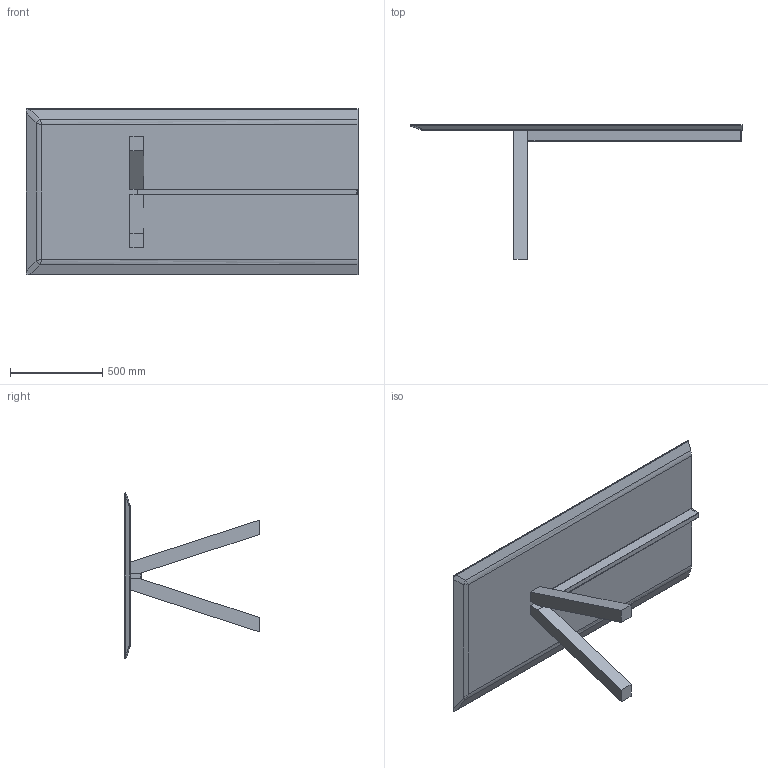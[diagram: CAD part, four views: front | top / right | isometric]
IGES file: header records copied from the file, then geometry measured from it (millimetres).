
Start section: SolidWorks IGES file using NURBS representation for surfaces
Global section: file name: W:\01-VICCARBE\PRODUCTOS\45-TRESTLE\04-MODELADOS (PLANOS)\WEB\table\3D\IGES\viccarbe_trestle_table_end_component.IGS; native system: SolidWorks 2013; preprocessor: SolidWorks 2013; author: Usuario; date: 140918.102039; units: millimetre
Bounding box: 1800 x 729 x 900 mm (x, y, z)
Surface area: 4179193.4 mm2 (no closed solid volume)
Topology: 0 solids, 0 shells, 58 faces, 254 edges, 252 vertices
Faces by surface type: bspline 58
